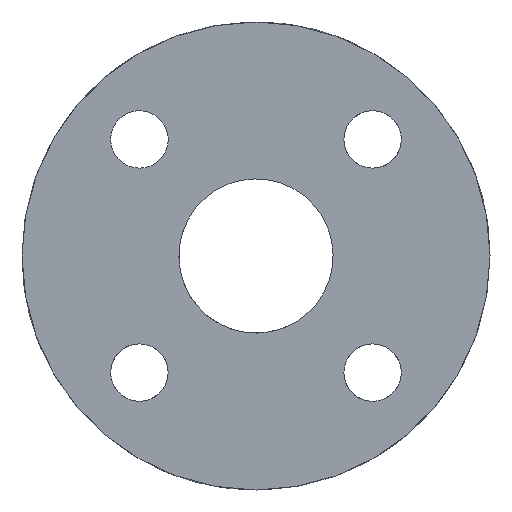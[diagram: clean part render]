
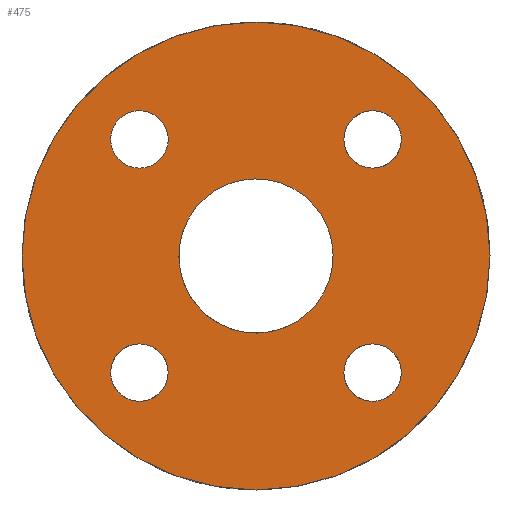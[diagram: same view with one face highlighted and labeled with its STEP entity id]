
A CAD part, left-side view. The second image highlights one B-rep face of the part: STEP entity #475.
In plain terms, the highlighted planar face has unit normal (-1, 0, 0).
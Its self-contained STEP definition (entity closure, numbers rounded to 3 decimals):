
#63=CARTESIAN_POINT('Vertex',(0.,8.591,9.666)) ;
#77=CARTESIAN_POINT('Vertex',(0.,13.33,12.255)) ;
#80=CARTESIAN_POINT('Axis2P3D Location',(0.,10.96,10.96)) ;
#109=CARTESIAN_POINT('Control Point',(0.,13.33,12.255)) ;
#110=CARTESIAN_POINT('Control Point',(0.,12.923,12.999)) ;
#111=CARTESIAN_POINT('Control Point',(0.,12.224,13.584)) ;
#112=CARTESIAN_POINT('Control Point',(0.,11.314,13.851)) ;
#113=CARTESIAN_POINT('Control Point',(0.,9.506,13.622)) ;
#114=CARTESIAN_POINT('Control Point',(0.,8.337,12.224)) ;
#115=CARTESIAN_POINT('Control Point',(0.,8.07,11.314)) ;
#116=CARTESIAN_POINT('Control Point',(0.,8.184,10.41)) ;
#117=CARTESIAN_POINT('Control Point',(0.,8.591,9.666)) ;
#376=CARTESIAN_POINT('Axis2P3D Location',(0.,0.,0.)) ;
#381=CARTESIAN_POINT('Axis2P3D Location',(0.,0.,0.)) ;
#385=CARTESIAN_POINT('Vertex',(0.,-22.,0.)) ;
#387=CARTESIAN_POINT('Vertex',(0.,22.,0.)) ;
#390=CARTESIAN_POINT('Axis2P3D Location',(0.,0.,0.)) ;
#403=CARTESIAN_POINT('Axis2P3D Location',(0.,0.,0.)) ;
#407=CARTESIAN_POINT('Vertex',(0.,-6.362,-3.476)) ;
#409=CARTESIAN_POINT('Vertex',(0.,6.362,3.476)) ;
#412=CARTESIAN_POINT('Axis2P3D Location',(0.,0.,0.)) ;
#421=CARTESIAN_POINT('Axis2P3D Location',(0.,-10.96,10.96)) ;
#425=CARTESIAN_POINT('Vertex',(0.,-12.255,13.33)) ;
#427=CARTESIAN_POINT('Vertex',(0.,-9.666,8.591)) ;
#430=CARTESIAN_POINT('Axis2P3D Location',(0.,-10.96,10.96)) ;
#439=CARTESIAN_POINT('Axis2P3D Location',(0.,-10.96,-10.96)) ;
#443=CARTESIAN_POINT('Vertex',(0.,-13.33,-12.255)) ;
#445=CARTESIAN_POINT('Vertex',(0.,-8.591,-9.666)) ;
#448=CARTESIAN_POINT('Axis2P3D Location',(0.,-10.96,-10.96)) ;
#457=CARTESIAN_POINT('Axis2P3D Location',(0.,10.96,-10.96)) ;
#461=CARTESIAN_POINT('Vertex',(0.,12.255,-13.33)) ;
#463=CARTESIAN_POINT('Vertex',(0.,9.666,-8.591)) ;
#466=CARTESIAN_POINT('Axis2P3D Location',(0.,10.96,-10.96)) ;
#81=DIRECTION('Axis2P3D Direction',(1.,0.,-0.)) ;
#377=DIRECTION('Axis2P3D Direction',(1.,0.,0.)) ;
#378=DIRECTION('Axis2P3D XDirection',(0.,1.,0.)) ;
#382=DIRECTION('Axis2P3D Direction',(1.,0.,0.)) ;
#391=DIRECTION('Axis2P3D Direction',(1.,0.,0.)) ;
#404=DIRECTION('Axis2P3D Direction',(1.,0.,0.)) ;
#413=DIRECTION('Axis2P3D Direction',(1.,0.,0.)) ;
#422=DIRECTION('Axis2P3D Direction',(1.,0.,0.)) ;
#431=DIRECTION('Axis2P3D Direction',(1.,0.,0.)) ;
#440=DIRECTION('Axis2P3D Direction',(1.,0.,0.)) ;
#449=DIRECTION('Axis2P3D Direction',(1.,0.,0.)) ;
#458=DIRECTION('Axis2P3D Direction',(1.,0.,0.)) ;
#467=DIRECTION('Axis2P3D Direction',(1.,0.,0.)) ;
#82=AXIS2_PLACEMENT_3D('Circle Axis2P3D',#80,#81,$) ;
#379=AXIS2_PLACEMENT_3D('Plane Axis2P3D',#376,#377,#378) ;
#383=AXIS2_PLACEMENT_3D('Circle Axis2P3D',#381,#382,$) ;
#392=AXIS2_PLACEMENT_3D('Circle Axis2P3D',#390,#391,$) ;
#405=AXIS2_PLACEMENT_3D('Circle Axis2P3D',#403,#404,$) ;
#414=AXIS2_PLACEMENT_3D('Circle Axis2P3D',#412,#413,$) ;
#423=AXIS2_PLACEMENT_3D('Circle Axis2P3D',#421,#422,$) ;
#432=AXIS2_PLACEMENT_3D('Circle Axis2P3D',#430,#431,$) ;
#441=AXIS2_PLACEMENT_3D('Circle Axis2P3D',#439,#440,$) ;
#450=AXIS2_PLACEMENT_3D('Circle Axis2P3D',#448,#449,$) ;
#459=AXIS2_PLACEMENT_3D('Circle Axis2P3D',#457,#458,$) ;
#468=AXIS2_PLACEMENT_3D('Circle Axis2P3D',#466,#467,$) ;
#396=ORIENTED_EDGE('',*,*,#389,.F.) ;
#397=ORIENTED_EDGE('',*,*,#394,.F.) ;
#400=ORIENTED_EDGE('',*,*,#84,.T.) ;
#401=ORIENTED_EDGE('',*,*,#118,.T.) ;
#418=ORIENTED_EDGE('',*,*,#411,.T.) ;
#419=ORIENTED_EDGE('',*,*,#416,.T.) ;
#436=ORIENTED_EDGE('',*,*,#429,.T.) ;
#437=ORIENTED_EDGE('',*,*,#434,.T.) ;
#454=ORIENTED_EDGE('',*,*,#447,.T.) ;
#455=ORIENTED_EDGE('',*,*,#452,.T.) ;
#472=ORIENTED_EDGE('',*,*,#465,.T.) ;
#473=ORIENTED_EDGE('',*,*,#470,.T.) ;
#402=FACE_BOUND('',#399,.T.) ;
#420=FACE_BOUND('',#417,.T.) ;
#438=FACE_BOUND('',#435,.T.) ;
#456=FACE_BOUND('',#453,.T.) ;
#474=FACE_BOUND('',#471,.T.) ;
#475=ADVANCED_FACE('TTM14',(#398,#402,#420,#438,#456,#474),#380,.F.) ;
#108=B_SPLINE_CURVE_WITH_KNOTS('',5,(#109,#110,#111,#112,#113,#114,#115,#116,#117),.UNSPECIFIED.,.F.,.U.,(6,3,6),(-4.241,0.,4.241),.UNSPECIFIED.) ;
#83=CIRCLE('generated circle',#82,2.7) ;
#384=CIRCLE('generated circle',#383,22.) ;
#393=CIRCLE('generated circle',#392,22.) ;
#406=CIRCLE('generated circle',#405,7.25) ;
#415=CIRCLE('generated circle',#414,7.25) ;
#424=CIRCLE('generated circle',#423,2.7) ;
#433=CIRCLE('generated circle',#432,2.7) ;
#442=CIRCLE('generated circle',#441,2.7) ;
#451=CIRCLE('generated circle',#450,2.7) ;
#460=CIRCLE('generated circle',#459,2.7) ;
#469=CIRCLE('generated circle',#468,2.7) ;
#84=EDGE_CURVE('',#64,#78,#83,.T.) ;
#118=EDGE_CURVE('',#78,#64,#108,.T.) ;
#389=EDGE_CURVE('',#386,#388,#384,.T.) ;
#394=EDGE_CURVE('',#388,#386,#393,.T.) ;
#411=EDGE_CURVE('',#408,#410,#406,.T.) ;
#416=EDGE_CURVE('',#410,#408,#415,.T.) ;
#429=EDGE_CURVE('',#426,#428,#424,.T.) ;
#434=EDGE_CURVE('',#428,#426,#433,.T.) ;
#447=EDGE_CURVE('',#444,#446,#442,.T.) ;
#452=EDGE_CURVE('',#446,#444,#451,.T.) ;
#465=EDGE_CURVE('',#462,#464,#460,.T.) ;
#470=EDGE_CURVE('',#464,#462,#469,.T.) ;
#395=EDGE_LOOP('',(#396,#397)) ;
#399=EDGE_LOOP('',(#400,#401)) ;
#417=EDGE_LOOP('',(#418,#419)) ;
#435=EDGE_LOOP('',(#436,#437)) ;
#453=EDGE_LOOP('',(#454,#455)) ;
#471=EDGE_LOOP('',(#472,#473)) ;
#398=FACE_OUTER_BOUND('',#395,.T.) ;
#380=PLANE('',#379) ;
#64=VERTEX_POINT('',#63) ;
#78=VERTEX_POINT('',#77) ;
#386=VERTEX_POINT('',#385) ;
#388=VERTEX_POINT('',#387) ;
#408=VERTEX_POINT('',#407) ;
#410=VERTEX_POINT('',#409) ;
#426=VERTEX_POINT('',#425) ;
#428=VERTEX_POINT('',#427) ;
#444=VERTEX_POINT('',#443) ;
#446=VERTEX_POINT('',#445) ;
#462=VERTEX_POINT('',#461) ;
#464=VERTEX_POINT('',#463) ;
